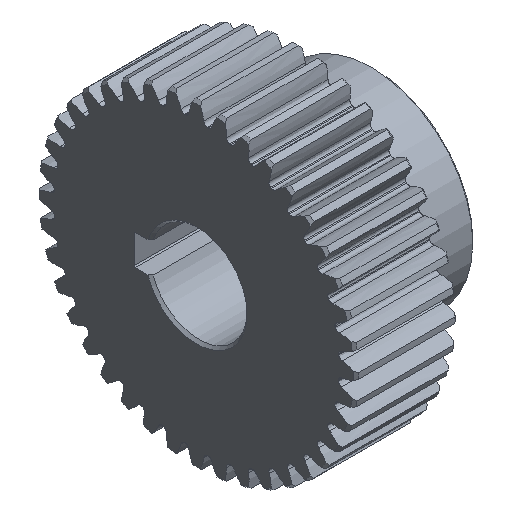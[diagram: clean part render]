
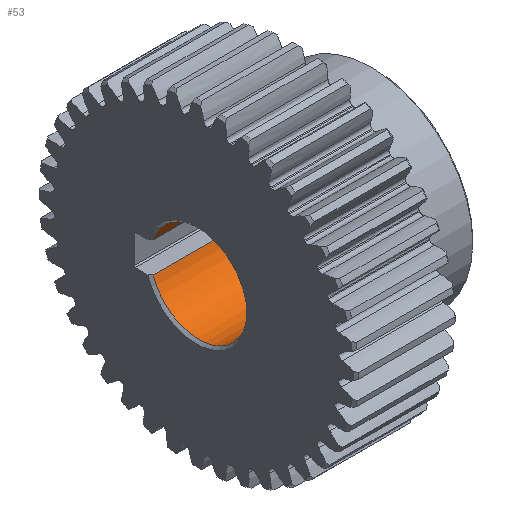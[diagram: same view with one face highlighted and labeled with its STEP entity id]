
A CAD part, isometric view. The second image highlights one B-rep face of the part: STEP entity #53.
In plain terms, the highlighted cylindrical face has radius 9.5 mm (diameter 19 mm), a partial arc.
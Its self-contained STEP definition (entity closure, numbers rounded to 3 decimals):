
#53=ADVANCED_FACE('',(#3068,#3070),#3072,.F.);
#3068=FACE_BOUND('',#3069,.T.);
#3069=EDGE_LOOP('',(#5275,#5276,#5277,#5278));
#3070=FACE_BOUND('',#3071,.T.);
#3071=EDGE_LOOP('',(#5279));
#3072=CYLINDRICAL_SURFACE('',#3073,9.5);
#3073=AXIS2_PLACEMENT_3D('',#3074,#3075,#3076);
#3074=CARTESIAN_POINT('',(0.,0.,0.));
#3075=DIRECTION('',(1.,0.,0.));
#3076=DIRECTION('',(0.,-0.,1.));
#5275=ORIENTED_EDGE('',*,*,#8537,.T.);
#5276=ORIENTED_EDGE('',*,*,#8538,.F.);
#5277=ORIENTED_EDGE('',*,*,#8539,.T.);
#5278=ORIENTED_EDGE('',*,*,#8540,.F.);
#5279=ORIENTED_EDGE('',*,*,#8541,.T.);
#8537=EDGE_CURVE('',#9528,#9529,#9530,.T.);
#8538=EDGE_CURVE('',#9531,#9529,#9532,.F.);
#8539=EDGE_CURVE('',#9531,#9533,#9534,.F.);
#8540=EDGE_CURVE('',#9528,#9533,#9535,.T.);
#8541=EDGE_CURVE('',#9536,#9536,#9537,.T.);
#9528=VERTEX_POINT('',#11182);
#9529=VERTEX_POINT('',#11183);
#9530=LINE('',#11184,#11185);
#9531=VERTEX_POINT('',#11187);
#9532=CIRCLE('',#11188,9.5);
#9533=VERTEX_POINT('',#11192);
#9534=LINE('',#11193,#11194);
#9535=CIRCLE('',#11196,9.5);
#9536=VERTEX_POINT('',#11200);
#9537=B_SPLINE_CURVE_WITH_KNOTS('',3,
(#11201,#11202,#11203,#11204,#11205,#11206,#11207,#11208,#11209,#11210,#11211,#11212,
#11213,#11214,#11215,#11216,#11217,#11218,#11219,#11220,#11221,#11222,#11223,#11224,
#11225,#11226,#11227,#11228,#11229,#11230,#11231,#11232,#11233,#11234,#11235,#11236,
#11237,#11238,#11239,#11240,#11241,#11242,#11243,#11244,#11245,#11246,#11247,#11248,
#11249,#11250,#11251,#11252,#11253,#11254,#11255,#11256,#11257,#11258,#11259,#11260,
#11261,#11262,#11263,#11264,#11265,#11266,#11267,#11268),
.UNSPECIFIED.,.T.,.F.,
(4,1,1,1,1,1,1,1,1,1,1,1,1,1,1,1,1,1,1,1,1,1,1,1,1,1,1,1,1,1,1,1,1,1,1,1,1,1,1,1,
1,1,1,1,1,1,1,1,1,1,1,1,1,1,1,1,1,1,1,1,1,1,1,1,1,4),
(0.,0.009,0.018,0.028,0.038,
0.049,0.063,0.078,0.093,0.107,
0.123,0.14,0.159,0.178,0.197,
0.218,0.237,0.254,0.268,0.281,
0.297,0.315,0.333,0.35,0.367,
0.383,0.403,0.422,0.44,0.455,
0.469,0.481,0.489,0.498,0.507,
0.517,0.527,0.539,0.554,0.572,
0.59,0.606,0.62,0.636,0.653,
0.672,0.691,0.711,0.73,0.748,
0.765,0.781,0.796,0.81,0.829,
0.849,0.869,0.886,0.903,0.918,
0.932,0.948,0.962,0.975,0.986,
1.),
.UNSPECIFIED.);
#11182=CARTESIAN_POINT('',(0.5,9.014,3.));
#11183=CARTESIAN_POINT('',(34.5,9.014,3.));
#11184=CARTESIAN_POINT('',(0.5,9.014,3.));
#11185=VECTOR('',#11186,1.);
#11186=DIRECTION('',(1.,0.,0.));
#11187=CARTESIAN_POINT('',(34.5,9.014,-3.));
#11188=AXIS2_PLACEMENT_3D('',#11189,#11190,#11191);
#11189=CARTESIAN_POINT('',(34.5,0.,0.));
#11190=DIRECTION('',(1.,0.,0.));
#11191=DIRECTION('',(0.,0.949,0.316));
#11192=CARTESIAN_POINT('',(0.5,9.014,-3.));
#11193=CARTESIAN_POINT('',(0.5,9.014,-3.));
#11194=VECTOR('',#11195,1.);
#11195=DIRECTION('',(1.,0.,0.));
#11196=AXIS2_PLACEMENT_3D('',#11197,#11198,#11199);
#11197=CARTESIAN_POINT('',(0.5,0.,0.));
#11198=DIRECTION('',(1.,0.,0.));
#11199=DIRECTION('',(0.,0.949,0.316));
#11200=CARTESIAN_POINT('',(31.229,-4.75,-8.227));
#11201=CARTESIAN_POINT('',(31.229,-4.75,-8.227));
#11202=CARTESIAN_POINT('',(31.229,-4.787,-8.206));
#11203=CARTESIAN_POINT('',(31.227,-4.861,-8.163));
#11204=CARTESIAN_POINT('',(31.216,-4.973,-8.095));
#11205=CARTESIAN_POINT('',(31.196,-5.088,-8.023));
#11206=CARTESIAN_POINT('',(31.166,-5.205,-7.947));
#11207=CARTESIAN_POINT('',(31.122,-5.336,-7.86));
#11208=CARTESIAN_POINT('',(31.059,-5.479,-7.762));
#11209=CARTESIAN_POINT('',(30.97,-5.63,-7.652));
#11210=CARTESIAN_POINT('',(30.864,-5.774,-7.544));
#11211=CARTESIAN_POINT('',(30.74,-5.91,-7.439));
#11212=CARTESIAN_POINT('',(30.594,-6.04,-7.333));
#11213=CARTESIAN_POINT('',(30.418,-6.167,-7.227));
#11214=CARTESIAN_POINT('',(30.209,-6.284,-7.125));
#11215=CARTESIAN_POINT('',(29.978,-6.383,-7.037));
#11216=CARTESIAN_POINT('',(29.723,-6.463,-6.963));
#11217=CARTESIAN_POINT('',(29.457,-6.517,-6.912));
#11218=CARTESIAN_POINT('',(29.19,-6.546,-6.885));
#11219=CARTESIAN_POINT('',(28.957,-6.55,-6.881));
#11220=CARTESIAN_POINT('',(28.751,-6.54,-6.891));
#11221=CARTESIAN_POINT('',(28.553,-6.517,-6.913));
#11222=CARTESIAN_POINT('',(28.339,-6.476,-6.95));
#11223=CARTESIAN_POINT('',(28.111,-6.413,-7.009));
#11224=CARTESIAN_POINT('',(27.889,-6.329,-7.085));
#11225=CARTESIAN_POINT('',(27.685,-6.227,-7.175));
#11226=CARTESIAN_POINT('',(27.503,-6.113,-7.273));
#11227=CARTESIAN_POINT('',(27.33,-5.977,-7.385));
#11228=CARTESIAN_POINT('',(27.17,-5.817,-7.512));
#11229=CARTESIAN_POINT('',(27.032,-5.637,-7.648));
#11230=CARTESIAN_POINT('',(26.929,-5.457,-7.778));
#11231=CARTESIAN_POINT('',(26.858,-5.285,-7.895));
#11232=CARTESIAN_POINT('',(26.813,-5.128,-7.998));
#11233=CARTESIAN_POINT('',(26.788,-4.996,-8.081));
#11234=CARTESIAN_POINT('',(26.775,-4.882,-8.15));
#11235=CARTESIAN_POINT('',(26.77,-4.776,-8.212));
#11236=CARTESIAN_POINT('',(26.772,-4.664,-8.277));
#11237=CARTESIAN_POINT('',(26.782,-4.543,-8.344));
#11238=CARTESIAN_POINT('',(26.802,-4.413,-8.413));
#11239=CARTESIAN_POINT('',(26.839,-4.26,-8.492));
#11240=CARTESIAN_POINT('',(26.899,-4.079,-8.58));
#11241=CARTESIAN_POINT('',(26.992,-3.876,-8.674));
#11242=CARTESIAN_POINT('',(27.111,-3.681,-8.758));
#11243=CARTESIAN_POINT('',(27.24,-3.51,-8.828));
#11244=CARTESIAN_POINT('',(27.377,-3.36,-8.886));
#11245=CARTESIAN_POINT('',(27.536,-3.215,-8.94));
#11246=CARTESIAN_POINT('',(27.724,-3.072,-8.99));
#11247=CARTESIAN_POINT('',(27.946,-2.941,-9.034));
#11248=CARTESIAN_POINT('',(28.191,-2.83,-9.069));
#11249=CARTESIAN_POINT('',(28.449,-2.749,-9.094));
#11250=CARTESIAN_POINT('',(28.71,-2.7,-9.108));
#11251=CARTESIAN_POINT('',(28.964,-2.682,-9.113));
#11252=CARTESIAN_POINT('',(29.207,-2.692,-9.111));
#11253=CARTESIAN_POINT('',(29.431,-2.725,-9.101));
#11254=CARTESIAN_POINT('',(29.637,-2.775,-9.086));
#11255=CARTESIAN_POINT('',(29.847,-2.847,-9.064));
#11256=CARTESIAN_POINT('',(30.068,-2.948,-9.031));
#11257=CARTESIAN_POINT('',(30.303,-3.089,-8.984));
#11258=CARTESIAN_POINT('',(30.51,-3.252,-8.927));
#11259=CARTESIAN_POINT('',(30.685,-3.424,-8.862));
#11260=CARTESIAN_POINT('',(30.824,-3.591,-8.796));
#11261=CARTESIAN_POINT('',(30.94,-3.761,-8.724));
#11262=CARTESIAN_POINT('',(31.036,-3.935,-8.648));
#11263=CARTESIAN_POINT('',(31.112,-4.109,-8.566));
#11264=CARTESIAN_POINT('',(31.167,-4.281,-8.481));
#11265=CARTESIAN_POINT('',(31.203,-4.437,-8.401));
#11266=CARTESIAN_POINT('',(31.224,-4.592,-8.317));
#11267=CARTESIAN_POINT('',(31.229,-4.694,-8.259));
#11268=CARTESIAN_POINT('',(31.229,-4.75,-8.227));
